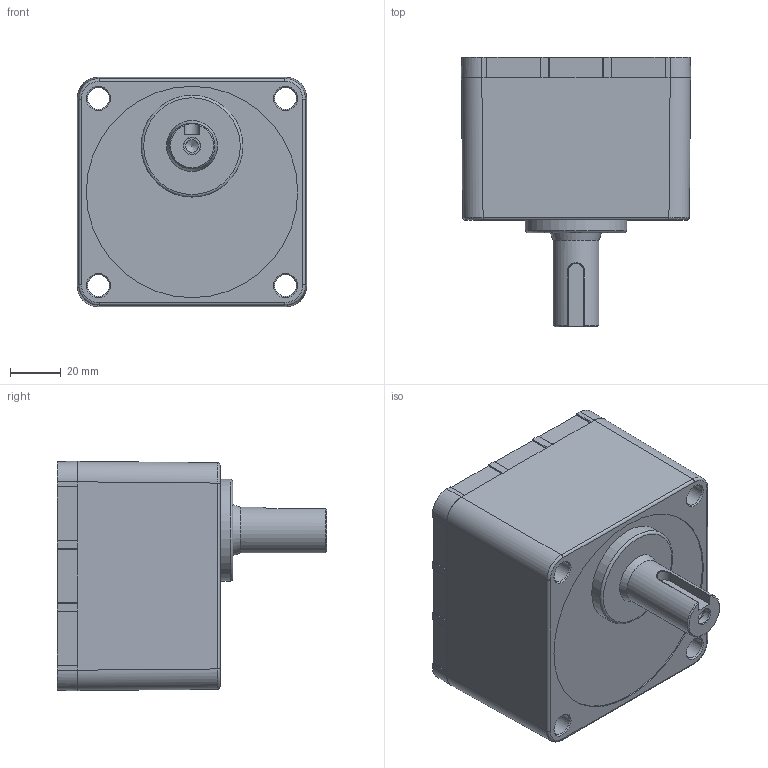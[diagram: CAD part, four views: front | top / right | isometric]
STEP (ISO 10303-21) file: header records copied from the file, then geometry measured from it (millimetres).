
FILE_DESCRIPTION((''),'2;1');
FILE_NAME('E:\2공장-도면\3D\STEP FILE\K9H200B.stp','2014-08-18T15:38:19',('輺'),(''),'Autodesk Inventor 2008','Autodesk Inventor 2008','');
FILE_SCHEMA(('CONFIG_CONTROL_DESIGN'));
Length unit declared in the file: millimetre
Products named in the file (1): 부품50
Bounding box: 90 x 106 x 90 mm (x, y, z)
Volume: 487640.3 mm3; surface area: 48397.2 mm2
Topology: 1 solids, 1 shells, 157 faces, 385 edges, 240 vertices
Faces by surface type: plane 110, cylinder 26, bspline 11, cone 9, torus 1
Full cylindrical faces by diameter (mm): 8.5 x4, 9 x1, 9.3 x4, 18 x1, 40 x1, 82 x1, 83 x1
Entity records: 5087 total; most frequent: CARTESIAN_POINT 1323, ORIENTED_EDGE 712, DIRECTION 707, EDGE_CURVE 356, VECTOR 275, LINE 275, VERTEX_POINT 236, AXIS2_PLACEMENT_3D 216
